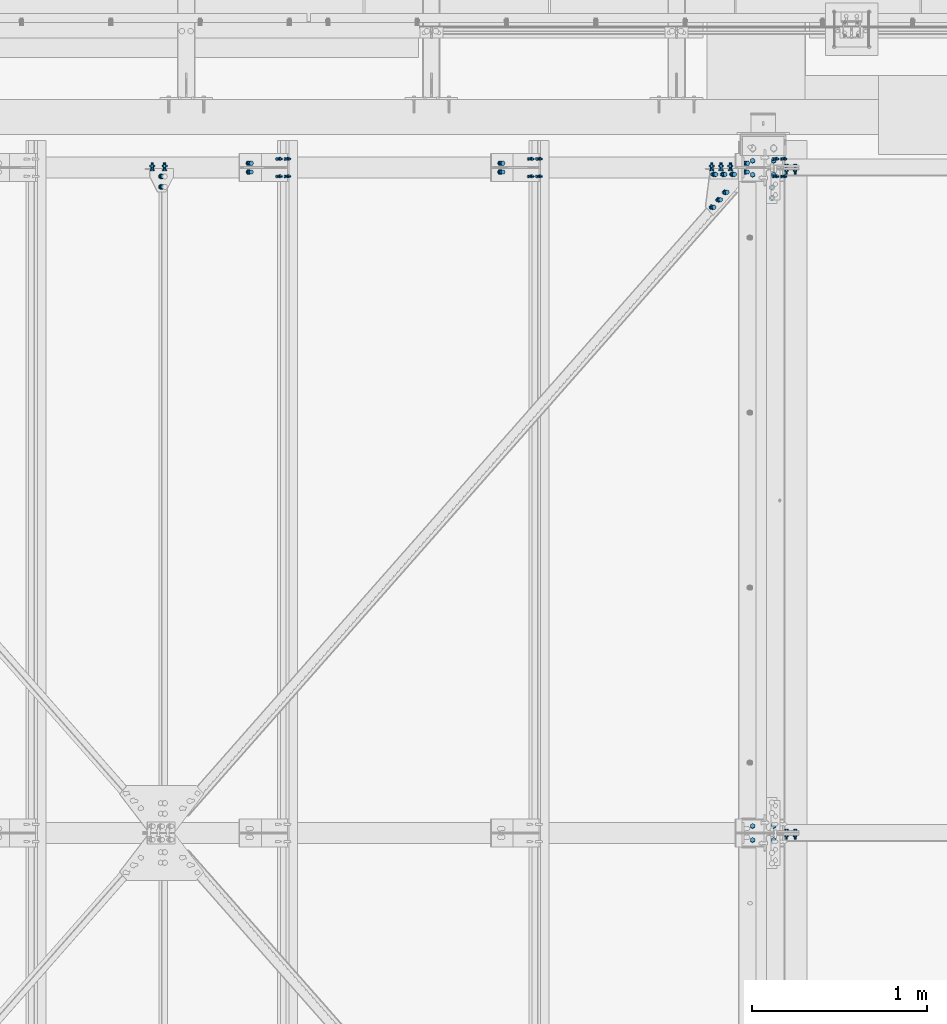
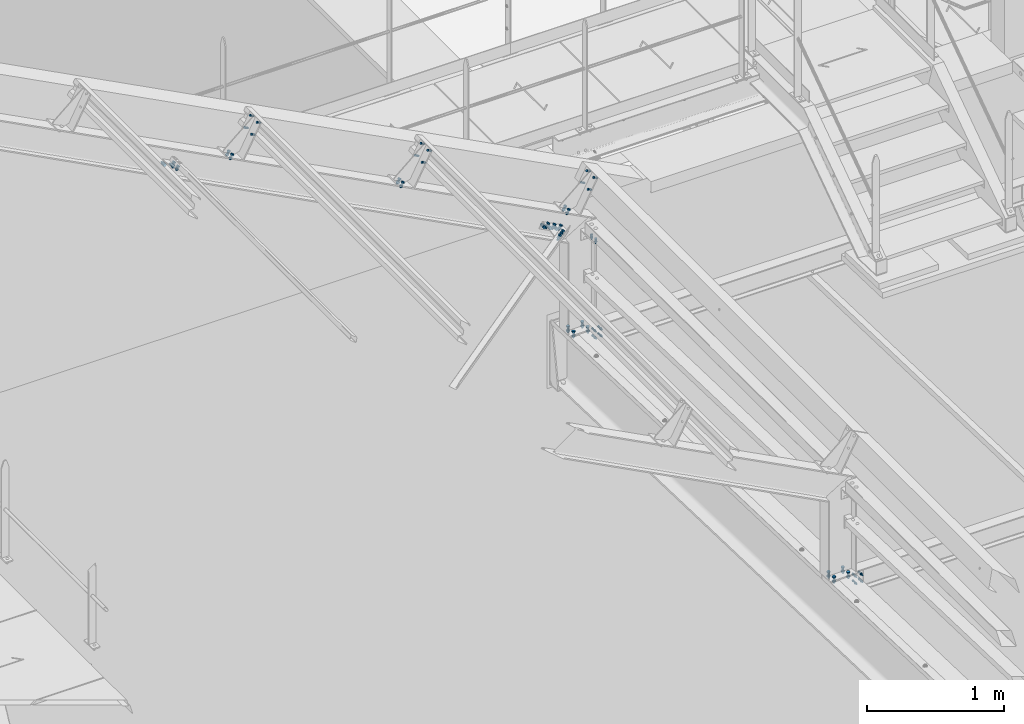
# One storey, part 172 of 362: 17 mechanical fasteners.
"""IFC2X3 building model written with IfcOpenShell, lengths in millimetres."""

from ifc_helpers import new_model, si_unit, frame, frame_2d, origin_with_axes, origin_2d_with_axis, place, context, subcontext, project, spatial, polyline, circle_curve, parameter, trimmed, segment, composite_curve, circle, outline, extrude, source, transform, mapped, material, type_object, element, save


model = new_model("IFC2X3")

# Units and contexts
model_context = context("Model", 3, precision=1e-05, world=origin_with_axes())
body_context = subcontext(model_context, "Body", "Model", "MODEL_VIEW")
ifc_project = project(units=[si_unit("LENGTHUNIT", "METRE", prefix="MILLI"), si_unit("AREAUNIT", "SQUARE_METRE"), si_unit("VOLUMEUNIT", "CUBIC_METRE"), si_unit("MASSUNIT", "GRAM", prefix="KILO"), si_unit("TIMEUNIT", "SECOND"), si_unit("PLANEANGLEUNIT", "RADIAN"), si_unit("SOLIDANGLEUNIT", "STERADIAN"), si_unit("THERMODYNAMICTEMPERATUREUNIT", "DEGREE_CELSIUS"), si_unit("LUMINOUSINTENSITYUNIT", "LUMEN")], contexts=[model_context])

# Site, building, storey
site_placement = place(None, origin_with_axes())
site = spatial("IfcSite", under=ifc_project, at=site_placement, Name="Undefined", CompositionType="ELEMENT")
building_placement = place(site_placement, origin_with_axes())
building = spatial("IfcBuilding", under=site, at=building_placement, Name="Undefined", CompositionType="ELEMENT")
storey_placement = place(building_placement, origin_with_axes())
storey = spatial("IfcBuildingStorey", under=building, at=storey_placement, Name="Undefined", CompositionType="ELEMENT", Elevation=0.0)

# Mechanical fasteners
ifc_material_1 = material(Name="8.8-SB-ZINGUE")
mechanical_fastener_type = type_object("IfcMechanicalFastenerType", Name="Bolt assembly")
shared_shape_1 = source(origin_with_axes(), body_context, "Body", "SweptSolid", [
    extrude(circle(Radius=7.0, at=origin_2d_with_axis()), frame((0.0, -0.10007666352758, 0.0), z_axis=(0.0, 1.0, 0.0), x_axis=(1.0, 0.0, 0.0)), (0.0, 0.0, 1.0), 3.1),
    extrude(circle(Radius=7.0, at=origin_2d_with_axis()), frame((0.0, -9.9, 0.0), z_axis=(0.0, 1.0, 0.0), x_axis=(1.0, 0.0, 0.0)), (0.0, 0.0, 1.0), 10.0),
    extrude(outline(polyline([(10.39230484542, 0.0), (5.19615242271, 9.00000000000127), (-5.19615242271, 9.00000000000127), (-10.39230484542, 0.0), (-5.19615242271, -9.00000000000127), (5.19615242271, -9.00000000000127), (10.39230484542, 0.0)])), frame((0.0, -17.92, 0.0), z_axis=(0.0, 1.0, 0.0), x_axis=(1.0, 0.0, 0.0)), (0.0, 0.0, 1.0), 7.92),
    extrude(circle(Radius=6.0, at=origin_2d_with_axis()), frame((0.0, -10.0000010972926, 0.0), z_axis=(0.0, 1.0, 0.0), x_axis=(1.0, 0.0, 0.0)), (0.0, 0.0, 1.0), 30.0),
    extrude(outline(polyline([(11.5008173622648, 0.0), (5.7504086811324, 9.96000000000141), (-5.7504086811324, 9.96000000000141), (-11.5008173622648, 0.0), (-5.7504086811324, -9.96000000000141), (5.7504086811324, -9.96000000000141), (11.5008173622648, 0.0)])), frame((0.0, 3.00000067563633, 0.0), z_axis=(0.0, 1.0, 0.0), x_axis=(1.0, 0.0, 0.0)), (0.0, 0.0, 1.0), 7.92),
])
for number, where, z_axis, x_axis, name in (
    (1, (19620.3252333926, 15249.9999403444, 8812.98460901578), (0.0, 1.0, 0.0), (0.463528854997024, 6.99999093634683e-09, 0.886081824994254), "Bolt assembly"),
    (2, (19620.3252333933, 15150.0000596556, 8812.98460901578), (0.0, 1.0, 0.0), (0.463528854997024, 6.99999093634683e-09, 0.886081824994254), "Bolt assembly"),
):
    element("IfcMechanicalFastener", number, at=place(storey_placement, frame(where, z_axis=z_axis, x_axis=x_axis)), inside=storey, type_object=mechanical_fastener_type, material=ifc_material_1, Name=name, NominalDiameter=12.0, NominalLength=30.0, context=body_context, shape_type="MappedRepresentation", body=[
        mapped(shared_shape_1, transform((0.0, 0.0, 0.0))),
        mapped(shared_shape_1, transform((99.9999999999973, -1.63709046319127e-11, 7.73070496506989e-12))),
    ])
ifc_material_2 = material(Name="#_SB-8.8-ZINGUE")
shared_shape_2 = source(origin_with_axes(), body_context, "Body", "SweptSolid", [
    extrude(circle(Radius=9.0, at=origin_2d_with_axis()), frame((0.0, -5.8999542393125, 0.0), z_axis=(0.0, 1.0, 0.0), x_axis=(1.0, 0.0, 0.0)), (0.0, 0.0, 1.0), 6.0),
    extrude(circle(Radius=9.0, at=origin_2d_with_axis()), frame((0.0, -0.100011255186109, 0.0), z_axis=(0.0, 1.0, 0.0), x_axis=(1.0, 0.0, 0.0)), (0.0, 0.0, 1.0), 6.1),
    extrude(outline(polyline([(13.85640646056, 0.0), (6.92820323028, 12.0000000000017), (-6.92820323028, 12.0000000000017), (-13.85640646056, 0.0), (-6.92820323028, -12.0000000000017), (6.92820323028, -12.0000000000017), (13.85640646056, 0.0)])), frame((0.0, -16.5599735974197, 0.0), z_axis=(0.0, 1.0, 0.0), x_axis=(1.0, 0.0, 0.0)), (0.0, 0.0, 1.0), 10.56),
    extrude(circle(Radius=8.0, at=origin_2d_with_axis()), frame((0.0, -5.9999542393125, 0.0), z_axis=(0.0, 1.0, 0.0), x_axis=(1.0, 0.0, 0.0)), (0.0, 0.0, 1.0), 40.0),
    extrude(outline(polyline([(15.3344231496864, 0.0), (7.6672115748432, 13.2800000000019), (-7.6672115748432, 13.2800000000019), (-15.3344231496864, 0.0), (-7.6672115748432, -13.2800000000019), (7.6672115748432, -13.2800000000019), (15.3344231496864, 0.0)])), frame((0.0, 6.0, 0.0), z_axis=(0.0, 1.0, 0.0), x_axis=(1.0, 0.0, 0.0)), (0.0, 0.0, 1.0), 10.56),
])
mechanical_fastener_1_placement = place(storey_placement, frame((19337.2315162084, 15059.0096046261, 8588.65069913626), z_axis=(0.628485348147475, -0.704921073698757, -0.328774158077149), x_axis=(-0.624617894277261, -0.709285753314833, 0.326750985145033)))
element("IfcMechanicalFastener", 3, at=mechanical_fastener_1_placement, inside=storey, type_object=mechanical_fastener_type, material=ifc_material_2, Name="Bolt assembly", NominalDiameter=16.0, NominalLength=40.0, context=body_context, shape_type="MappedRepresentation", body=[
    mapped(shared_shape_2, transform((0.0, 0.0, 0.0))),
    mapped(shared_shape_2, transform((60.0, 0.0, 0.0))),
    mapped(shared_shape_2, transform((120.0, 0.0, 0.0))),
])
shared_shape_3 = source(origin_with_axes(), body_context, "Body", "SweptSolid", [
    extrude(circle(Radius=9.0, at=origin_2d_with_axis()), frame((0.0, 0.1, 0.0), z_axis=(0.0, 1.0, 0.0), x_axis=(1.0, 0.0, 0.0)), (0.0, 0.0, 1.0), 6.0),
    extrude(circle(Radius=9.0, at=origin_2d_with_axis()), frame((0.0, 5.90002706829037, 0.0), z_axis=(0.0, 1.0, 0.0), x_axis=(1.0, 0.0, 0.0)), (0.0, 0.0, 1.0), 6.1),
    extrude(outline(polyline([(13.85640646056, 0.0), (6.92820323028, 12.0000000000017), (-6.92820323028, 12.0000000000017), (-13.85640646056, 0.0), (-6.92820323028, -12.0000000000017), (6.92820323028, -12.0000000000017), (13.85640646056, 0.0)])), frame((0.0, -10.5600019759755, 0.0), z_axis=(0.0, 1.0, 0.0), x_axis=(1.0, 0.0, 0.0)), (0.0, 0.0, 1.0), 10.56),
    extrude(circle(Radius=8.0, at=origin_2d_with_axis()), frame((0.0, 0.0, 0.0), z_axis=(0.0, 1.0, 0.0), x_axis=(1.0, 0.0, 0.0)), (0.0, 0.0, 1.0), 40.0),
    extrude(outline(polyline([(15.3344231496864, 0.0), (7.6672115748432, 13.2800000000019), (-7.6672115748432, 13.2800000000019), (-15.3344231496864, 0.0), (-7.6672115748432, -13.2800000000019), (7.6672115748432, -13.2800000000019), (15.3344231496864, 0.0)])), frame((0.0, 12.0000270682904, 0.0), z_axis=(0.0, 1.0, 0.0), x_axis=(1.0, 0.0, 0.0)), (0.0, 0.0, 1.0), 10.56),
])
mechanical_fastener_2_placement = place(storey_placement, frame((19328.4795196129, 15161.5002987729, 8593.22905557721), z_axis=(-0.886082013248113, 9.38091927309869e-07, 0.463528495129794), x_axis=(8.27999962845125e-07, 0.99999999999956, -4.4099997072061e-07)))
element("IfcMechanicalFastener", 4, at=mechanical_fastener_2_placement, inside=storey, type_object=mechanical_fastener_type, material=ifc_material_2, Name="Bolt assembly", NominalDiameter=16.0, NominalLength=40.0, context=body_context, shape_type="MappedRepresentation", body=[
    mapped(shared_shape_3, transform((0.0, 0.0, -60.0))),
    mapped(shared_shape_3, transform((0.0, 0.0, 0.0))),
    mapped(shared_shape_3, transform((0.0, 0.0, 60.0))),
])
shared_shape_4 = source(origin_with_axes(), body_context, "Body", "SweptSolid", [
    extrude(circle(Radius=9.0, at=origin_2d_with_axis()), frame((0.0, -3.20019888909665, 0.0), z_axis=(0.0, 1.0, 0.0), x_axis=(1.0, 0.0, 0.0)), (0.0, 0.0, 1.0), 6.3),
    extrude(circle(Radius=9.0, at=origin_2d_with_axis()), frame((0.0, -9.39989811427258, 0.0), z_axis=(0.0, 1.0, 0.0), x_axis=(1.0, 0.0, 0.0)), (0.0, 0.0, 1.0), 6.0),
    extrude(outline(polyline([(13.85640646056, 0.0), (6.92820323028, 12.0000000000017), (-6.92820323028, 12.0000000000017), (-13.85640646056, 0.0), (-6.92820323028, -12.0000000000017), (6.92820323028, -12.0000000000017), (13.85640646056, 0.0)])), frame((0.0, -20.0598981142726, 0.0), z_axis=(0.0, 1.0, 0.0), x_axis=(1.0, 0.0, 0.0)), (0.0, 0.0, 1.0), 10.56),
    extrude(circle(Radius=8.0, at=origin_2d_with_axis()), frame((0.0, -9.49989811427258, 0.0), z_axis=(0.0, 1.0, 0.0), x_axis=(1.0, 0.0, 0.0)), (0.0, 0.0, 1.0), 40.0),
    extrude(outline(polyline([(15.3344231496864, 0.0), (7.6672115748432, 13.2800000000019), (-7.6672115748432, 13.2800000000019), (-15.3344231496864, 0.0), (-7.6672115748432, -13.2800000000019), (7.6672115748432, -13.2800000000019), (15.3344231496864, 0.0)])), frame((0.0, 3.09980091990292, 0.0), z_axis=(0.0, 1.0, 0.0), x_axis=(1.0, 0.0, 0.0)), (0.0, 0.0, 1.0), 10.56),
])
mechanical_fastener_3_placement = place(storey_placement, frame((19309.4748153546, 15200.0001989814, 8556.89970412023), z_axis=(-0.886081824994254, 0.0, 0.463528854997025), x_axis=(0.463528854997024, 6.99999093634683e-09, 0.886081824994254)))
element("IfcMechanicalFastener", 5, at=mechanical_fastener_3_placement, inside=storey, type_object=mechanical_fastener_type, material=ifc_material_2, Name="Bolt assembly", NominalDiameter=16.0, NominalLength=40.0, context=body_context, shape_type="MappedRepresentation", body=[
    mapped(shared_shape_4, transform((0.0, 0.0, -60.0))),
    mapped(shared_shape_4, transform((0.0, 0.0, 0.0))),
    mapped(shared_shape_4, transform((0.0, 0.0, 60.0))),
])
shared_shape_5 = source(origin_with_axes(), body_context, "Body", "SweptSolid", [
    extrude(circle(Radius=7.0, at=origin_2d_with_axis()), frame((0.0, -0.10007666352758, 0.0), z_axis=(0.0, 1.0, 0.0), x_axis=(1.0, 0.0, 0.0)), (0.0, 0.0, 1.0), 1.6),
    extrude(circle(Radius=7.0, at=origin_2d_with_axis()), frame((0.0, -9.9, 0.0), z_axis=(0.0, 1.0, 0.0), x_axis=(1.0, 0.0, 0.0)), (0.0, 0.0, 1.0), 10.0),
    extrude(outline(polyline([(10.39230484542, 0.0), (5.19615242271, 9.00000000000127), (-5.19615242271, 9.00000000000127), (-10.39230484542, 0.0), (-5.19615242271, -9.00000000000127), (5.19615242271, -9.00000000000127), (10.39230484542, 0.0)])), frame((0.0, -17.92, 0.0), z_axis=(0.0, 1.0, 0.0), x_axis=(1.0, 0.0, 0.0)), (0.0, 0.0, 1.0), 7.92),
    extrude(circle(Radius=6.0, at=origin_2d_with_axis()), frame((0.0, -10.0000010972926, 0.0), z_axis=(0.0, 1.0, 0.0), x_axis=(1.0, 0.0, 0.0)), (0.0, 0.0, 1.0), 30.0),
    extrude(outline(polyline([(11.5008173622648, 0.0), (5.7504086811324, 9.96000000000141), (-5.7504086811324, 9.96000000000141), (-11.5008173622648, 0.0), (-5.7504086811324, -9.96000000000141), (5.7504086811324, -9.96000000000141), (11.5008173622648, 0.0)])), frame((0.0, 1.49996853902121, 0.0), z_axis=(0.0, 1.0, 0.0), x_axis=(1.0, 0.0, 0.0)), (0.0, 0.0, 1.0), 7.92),
])
for number, where, z_axis, x_axis, name in (
    (6, (18222.435375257, 15200.0000596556, 9543.12202798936), (0.0, 1.0, 0.0), (0.463528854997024, 6.99999093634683e-09, 0.886081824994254), "Bolt assembly"),
    (7, (16785.1353099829, 15200.0000596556, 10295.0043300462), (0.0, 1.0, 0.0), (0.463528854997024, 6.99999093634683e-09, 0.886081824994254), "Bolt assembly"),
):
    element("IfcMechanicalFastener", number, at=place(storey_placement, frame(where, z_axis=z_axis, x_axis=x_axis)), inside=storey, type_object=mechanical_fastener_type, material=ifc_material_1, Name=name, NominalDiameter=12.0, NominalLength=30.0, context=body_context, shape_type="MappedRepresentation", body=[
        mapped(shared_shape_5, transform((0.0, 0.0, -50.0))),
        mapped(shared_shape_5, transform((102.00000000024, -2.51020537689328e-10, -50.0))),
        mapped(shared_shape_5, transform((0.0, 0.0, 50.0))),
        mapped(shared_shape_5, transform((102.00000000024, -2.51020537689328e-10, 50.0))),
    ])
shared_shape_6 = source(origin_with_axes(), body_context, "Body", "SweptSolid", [
    extrude(circle(Radius=9.0, at=origin_2d_with_axis()), frame((0.0, -0.0999426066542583, 0.0), z_axis=(0.0, 1.0, 0.0), x_axis=(1.0, 0.0, 0.0)), (0.0, 0.0, 1.0), 9.9),
    extrude(circle(Radius=9.0, at=origin_2d_with_axis()), frame((0.0, -9.9, 0.0), z_axis=(0.0, 1.0, 0.0), x_axis=(1.0, 0.0, 0.0)), (0.0, 0.0, 1.0), 10.0),
    extrude(outline(polyline([(13.85640646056, 0.0), (6.92820323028, 12.0000000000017), (-6.92820323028, 12.0000000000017), (-13.85640646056, 0.0), (-6.92820323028, -12.0000000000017), (6.92820323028, -12.0000000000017), (13.85640646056, 0.0)])), frame((0.0, -20.5600000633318, 0.0), z_axis=(0.0, 1.0, 0.0), x_axis=(1.0, 0.0, 0.0)), (0.0, 0.0, 1.0), 10.56),
    extrude(circle(Radius=8.0, at=origin_2d_with_axis()), frame((0.0, -10.0000010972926, 0.0), z_axis=(0.0, 1.0, 0.0), x_axis=(1.0, 0.0, 0.0)), (0.0, 0.0, 1.0), 40.0),
    extrude(outline(polyline([(15.3344231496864, 0.0), (7.6672115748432, 13.2800000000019), (-7.6672115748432, 13.2800000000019), (-15.3344231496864, 0.0), (-7.6672115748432, -13.2800000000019), (7.6672115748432, -13.2800000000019), (15.3344231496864, 0.0)])), frame((0.0, 9.80008147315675, 0.0), z_axis=(0.0, 1.0, 0.0), x_axis=(1.0, 0.0, 0.0)), (0.0, 0.0, 1.0), 10.56),
])
mechanical_fastener_4_placement = place(storey_placement, frame((16617.3712831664, 15200.0000375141, 10146.8954622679), z_axis=(0.0, 1.0, 0.0), x_axis=(0.886081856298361, 3.500000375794e-08, -0.463528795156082)))
element("IfcMechanicalFastener", 8, at=mechanical_fastener_4_placement, inside=storey, type_object=mechanical_fastener_type, material=ifc_material_1, Name="Bolt assembly", NominalDiameter=16.0, NominalLength=40.0, context=body_context, shape_type="MappedRepresentation", body=[
    mapped(shared_shape_6, transform((0.0, 0.0, -25.0))),
    mapped(shared_shape_6, transform((0.0, 0.0, 25.0))),
])
shared_shape_7 = source(origin_with_axes(), body_context, "Body", "SweptSolid", [
    extrude(circle(Radius=9.0, at=origin_2d_with_axis()), frame((0.0, -0.0998569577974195, 0.0), z_axis=(0.0, 1.0, 0.0), x_axis=(1.0, 0.0, 0.0)), (0.0, 0.0, 1.0), 9.9),
    extrude(circle(Radius=9.0, at=origin_2d_with_axis()), frame((0.0, -9.9, 0.0), z_axis=(0.0, 1.0, 0.0), x_axis=(1.0, 0.0, 0.0)), (0.0, 0.0, 1.0), 10.0),
    extrude(outline(polyline([(13.85640646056, 0.0), (6.92820323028, 12.0000000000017), (-6.92820323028, 12.0000000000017), (-13.85640646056, 0.0), (-6.92820323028, -12.0000000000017), (6.92820323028, -12.0000000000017), (13.85640646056, 0.0)])), frame((0.0, -20.5600000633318, 0.0), z_axis=(0.0, 1.0, 0.0), x_axis=(1.0, 0.0, 0.0)), (0.0, 0.0, 1.0), 10.56),
    extrude(circle(Radius=8.0, at=origin_2d_with_axis()), frame((0.0, -10.0000010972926, 0.0), z_axis=(0.0, 1.0, 0.0), x_axis=(1.0, 0.0, 0.0)), (0.0, 0.0, 1.0), 40.0),
    extrude(outline(polyline([(15.3344231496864, 0.0), (7.6672115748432, 13.2800000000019), (-7.6672115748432, 13.2800000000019), (-15.3344231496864, 0.0), (-7.6672115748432, -13.2800000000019), (7.6672115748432, -13.2800000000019), (15.3344231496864, 0.0)])), frame((0.0, 9.80017144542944, 0.0), z_axis=(0.0, 1.0, 0.0), x_axis=(1.0, 0.0, 0.0)), (0.0, 0.0, 1.0), 10.56),
])
mechanical_fastener_5_placement = place(storey_placement, frame((18054.6713484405, 15200.0000375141, 9395.01316021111), z_axis=(0.0, 1.0, 0.0), x_axis=(0.886081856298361, 3.500000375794e-08, -0.463528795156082)))
element("IfcMechanicalFastener", 9, at=mechanical_fastener_5_placement, inside=storey, type_object=mechanical_fastener_type, material=ifc_material_1, Name="Bolt assembly", NominalDiameter=16.0, NominalLength=40.0, context=body_context, shape_type="MappedRepresentation", body=[
    mapped(shared_shape_7, transform((0.0, 0.0, -25.0))),
    mapped(shared_shape_7, transform((0.0, 0.0, 25.0))),
])
shared_shape_8 = source(origin_with_axes(), body_context, "Body", "SweptSolid", [
    extrude(circle(Radius=9.0, at=origin_2d_with_axis()), frame((0.0, -0.0997388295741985, 0.0), z_axis=(0.0, 1.0, 0.0), x_axis=(1.0, 0.0, 0.0)), (0.0, 0.0, 1.0), 9.9),
    extrude(circle(Radius=9.0, at=origin_2d_with_axis()), frame((0.0, -9.9, 0.0), z_axis=(0.0, 1.0, 0.0), x_axis=(1.0, 0.0, 0.0)), (0.0, 0.0, 1.0), 10.0),
    extrude(outline(polyline([(13.85640646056, 0.0), (6.92820323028, 12.0000000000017), (-6.92820323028, 12.0000000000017), (-13.85640646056, 0.0), (-6.92820323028, -12.0000000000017), (6.92820323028, -12.0000000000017), (13.85640646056, 0.0)])), frame((0.0, -20.5600000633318, 0.0), z_axis=(0.0, 1.0, 0.0), x_axis=(1.0, 0.0, 0.0)), (0.0, 0.0, 1.0), 10.56),
    extrude(circle(Radius=8.0, at=origin_2d_with_axis()), frame((0.0, -10.0000010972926, 0.0), z_axis=(0.0, 1.0, 0.0), x_axis=(1.0, 0.0, 0.0)), (0.0, 0.0, 1.0), 40.0),
    extrude(outline(polyline([(15.3344231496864, 0.0), (7.6672115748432, 13.2800000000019), (-7.6672115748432, 13.2800000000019), (-15.3344231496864, 0.0), (-7.6672115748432, -13.2800000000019), (7.6672115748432, -13.2800000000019), (15.3344231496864, 0.0)])), frame((0.0, 9.80025892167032, 0.0), z_axis=(0.0, 1.0, 0.0), x_axis=(1.0, 0.0, 0.0)), (0.0, 0.0, 1.0), 10.56),
])
mechanical_fastener_6_placement = place(storey_placement, frame((19452.0976781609, 15200.0000375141, 8663.98965918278), z_axis=(0.0, 1.0, 0.0), x_axis=(0.886081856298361, 3.500000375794e-08, -0.463528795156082)))
element("IfcMechanicalFastener", 10, at=mechanical_fastener_6_placement, inside=storey, type_object=mechanical_fastener_type, material=ifc_material_1, Name="Bolt assembly", NominalDiameter=16.0, NominalLength=40.0, context=body_context, shape_type="MappedRepresentation", body=[
    mapped(shared_shape_8, transform((0.0, 0.0, -25.0))),
    mapped(shared_shape_8, transform((0.0, 0.0, 25.0))),
])
shared_shape_9 = source(origin_with_axes(), body_context, "Body", "SweptSolid", [
    extrude(circle(Radius=9.0, at=origin_2d_with_axis()), frame((0.0, -3.89999843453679, 0.0), z_axis=(0.0, 1.0, 0.0), x_axis=(1.0, 0.0, 0.0)), (0.0, 0.0, 1.0), 4.0),
    extrude(circle(Radius=9.0, at=origin_2d_with_axis()), frame((0.0, -0.10007666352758, 0.0), z_axis=(0.0, 1.0, 0.0), x_axis=(1.0, 0.0, 0.0)), (0.0, 0.0, 1.0), 6.1),
    extrude(outline(polyline([(13.85640646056, 0.0), (6.92820323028, 12.0000000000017), (-6.92820323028, 12.0000000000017), (-13.85640646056, 0.0), (-6.92820323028, -12.0000000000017), (6.92820323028, -12.0000000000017), (13.85640646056, 0.0)])), frame((0.0, -14.560000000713, 0.0), z_axis=(0.0, 1.0, 0.0), x_axis=(1.0, 0.0, 0.0)), (0.0, 0.0, 1.0), 10.56),
    extrude(circle(Radius=8.0, at=origin_2d_with_axis()), frame((0.0, -3.99999923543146, 0.0), z_axis=(0.0, 1.0, 0.0), x_axis=(1.0, 0.0, 0.0)), (0.0, 0.0, 1.0), 30.0),
    extrude(outline(polyline([(15.3344231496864, 0.0), (7.6672115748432, 13.2800000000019), (-7.6672115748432, 13.2800000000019), (-15.3344231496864, 0.0), (-7.6672115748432, -13.2800000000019), (7.6672115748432, -13.2800000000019), (15.3344231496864, 0.0)])), frame((0.0, 6.0, 0.0), z_axis=(0.0, 1.0, 0.0), x_axis=(1.0, 0.0, 0.0)), (0.0, 0.0, 1.0), 10.56),
])
mechanical_fastener_7_placement = place(storey_placement, frame((16114.9999887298, 15150.0000000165, 10274.2688661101), z_axis=(0.886081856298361, 3.500000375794e-08, -0.463528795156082), x_axis=(0.0, -1.0, 0.0)))
element("IfcMechanicalFastener", 11, at=mechanical_fastener_7_placement, inside=storey, type_object=mechanical_fastener_type, material=ifc_material_2, Name="Bolt assembly", NominalDiameter=16.0, NominalLength=30.0, context=body_context, shape_type="MappedRepresentation", body=[
    mapped(shared_shape_9, transform((0.0, 0.0, 0.0))),
    mapped(shared_shape_9, transform((60.0, 0.0, 0.0))),
])
shared_shape_10 = source(origin_with_axes(), body_context, "Body", "SweptSolid", [
    extrude(circle(Radius=9.0, at=origin_2d_with_axis()), frame((0.0, -3.20005376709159, 0.0), z_axis=(0.0, 1.0, 0.0), x_axis=(1.0, 0.0, 0.0)), (0.0, 0.0, 1.0), 6.3),
    extrude(circle(Radius=9.0, at=origin_2d_with_axis()), frame((0.0, -9.40005437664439, 0.0), z_axis=(0.0, 1.0, 0.0), x_axis=(1.0, 0.0, 0.0)), (0.0, 0.0, 1.0), 6.0),
    extrude(outline(polyline([(13.85640646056, 0.0), (6.92820323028, 12.0000000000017), (-6.92820323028, 12.0000000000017), (-13.85640646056, 0.0), (-6.92820323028, -12.0000000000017), (6.92820323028, -12.0000000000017), (13.85640646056, 0.0)])), frame((0.0, -20.0600543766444, 0.0), z_axis=(0.0, 1.0, 0.0), x_axis=(1.0, 0.0, 0.0)), (0.0, 0.0, 1.0), 10.56),
    extrude(circle(Radius=8.0, at=origin_2d_with_axis()), frame((0.0, -9.50005437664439, 0.0), z_axis=(0.0, 1.0, 0.0), x_axis=(1.0, 0.0, 0.0)), (0.0, 0.0, 1.0), 40.0),
    extrude(outline(polyline([(15.3344231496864, 0.0), (7.6672115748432, 13.2800000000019), (-7.6672115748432, 13.2800000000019), (-15.3344231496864, 0.0), (-7.6672115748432, -13.2800000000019), (7.6672115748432, -13.2800000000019), (15.3344231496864, 0.0)])), frame((0.0, 3.09994604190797, 0.0), z_axis=(0.0, 1.0, 0.0), x_axis=(1.0, 0.0, 0.0)), (0.0, 0.0, 1.0), 10.56),
])
mechanical_fastener_8_placement = place(storey_placement, frame((16095.9919625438, 15200.0000543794, 10237.9412220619), z_axis=(-0.886081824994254, 0.0, 0.463528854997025), x_axis=(0.463528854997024, 6.99999093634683e-09, 0.886081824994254)))
element("IfcMechanicalFastener", 12, at=mechanical_fastener_8_placement, inside=storey, type_object=mechanical_fastener_type, material=ifc_material_2, Name="Bolt assembly", NominalDiameter=16.0, NominalLength=40.0, context=body_context, shape_type="MappedRepresentation", body=[
    mapped(shared_shape_10, transform((0.0, 0.0, 40.0))),
    mapped(shared_shape_10, transform((0.0, 0.0, -40.0))),
])
shared_shape_11 = source(origin_with_axes(), body_context, "Body", "SweptSolid", [
    extrude(circle(Radius=7.0, at=origin_2d_with_axis()), frame((0.0, -3.89999843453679, 0.0), z_axis=(0.0, 1.0, 0.0), x_axis=(1.0, 0.0, 0.0)), (0.0, 0.0, 1.0), 4.0),
    extrude(outline(composite_curve([segment(polyline([(-7.0, 7.0), (7.0, 7.0)]), True, "CONTINUOUS"), segment(trimmed(circle_curve(frame_2d((7.0, 0.0), x_axis=(0.0, 1.0)), 7.0), [parameter(0.0)], [parameter(3.14159265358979)], False, "PARAMETER"), True, "CONTINUOUS"), segment(polyline([(7.0, -7.0), (-7.0, -7.0)]), True, "CONTINUOUS"), segment(trimmed(circle_curve(frame_2d((-7.0, 0.0), x_axis=(0.0, -1.0)), 7.0), [parameter(0.0)], [parameter(3.14159265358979)], False, "PARAMETER"), True, "DISCONTINUOUS")], self_intersect=False)), frame((0.0, -0.100011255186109, 0.0), z_axis=(0.0, 1.0, 0.0), x_axis=(1.0, 0.0, 0.0)), (0.0, 0.0, 1.0), 10.1),
    extrude(outline(polyline([(10.39230484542, 0.0), (5.19615242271, 9.00000000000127), (-5.19615242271, 9.00000000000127), (-10.39230484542, 0.0), (-5.19615242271, -9.00000000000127), (5.19615242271, -9.00000000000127), (10.39230484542, 0.0)])), frame((0.0, -11.9199984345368, 0.0), z_axis=(0.0, 1.0, 0.0), x_axis=(1.0, 0.0, 0.0)), (0.0, 0.0, 1.0), 7.92),
    extrude(circle(Radius=6.0, at=origin_2d_with_axis()), frame((0.0, -3.99999923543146, 0.0), z_axis=(0.0, 1.0, 0.0), x_axis=(1.0, 0.0, 0.0)), (0.0, 0.0, 1.0), 40.0),
    extrude(circle(Radius=10.8, at=origin_2d_with_axis()), frame((0.0, 10.0000000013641, 0.0), z_axis=(0.0, 1.0, 0.0), x_axis=(1.0, 0.0, 0.0)), (0.0, 0.0, 1.0), 3.96),
    extrude(outline(polyline([(11.5008173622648, 0.0), (5.7504086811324, 9.96000000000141), (-5.7504086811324, 9.96000000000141), (-11.5008173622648, 0.0), (-5.7504086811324, -9.96000000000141), (5.7504086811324, -9.96000000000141), (11.5008173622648, 0.0)])), frame((0.0, 13.96, 0.0), z_axis=(0.0, 1.0, 0.0), x_axis=(1.0, 0.0, 0.0)), (0.0, 0.0, 1.0), 7.92),
])
mechanical_fastener_9_placement = place(storey_placement, frame((19599.9999999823, 15026.5, 8450.0), z_axis=(-1.0, 0.0, 0.0), x_axis=(0.0, 1.0, 0.0)))
element("IfcMechanicalFastener", 13, at=mechanical_fastener_9_placement, inside=storey, type_object=mechanical_fastener_type, material=ifc_material_1, Name="Bolt assembly", NominalDiameter=12.0, NominalLength=40.0, context=body_context, shape_type="MappedRepresentation", body=[
    mapped(shared_shape_11, transform((0.0, 0.0, 0.0))),
    mapped(shared_shape_11, transform((60.0, 0.0, 0.0))),
])
shared_shape_12 = source(origin_with_axes(), body_context, "Body", "SweptSolid", [
    extrude(circle(Radius=9.0, at=origin_2d_with_axis()), frame((0.0, -0.0995067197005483, 0.0), z_axis=(0.0, 1.0, 0.0), x_axis=(1.0, 0.0, 0.0)), (0.0, 0.0, 1.0), 17.3),
    extrude(circle(Radius=9.0, at=origin_2d_with_axis()), frame((0.0, -9.9, 0.0), z_axis=(0.0, 1.0, 0.0), x_axis=(1.0, 0.0, 0.0)), (0.0, 0.0, 1.0), 10.0),
    extrude(outline(polyline([(13.85640646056, 0.0), (6.92820323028, 12.0000000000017), (-6.92820323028, 12.0000000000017), (-13.85640646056, 0.0), (-6.92820323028, -12.0000000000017), (6.92820323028, -12.0000000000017), (13.85640646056, 0.0)])), frame((0.0, -20.5600000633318, 0.0), z_axis=(0.0, 1.0, 0.0), x_axis=(1.0, 0.0, 0.0)), (0.0, 0.0, 1.0), 10.56),
    extrude(circle(Radius=8.0, at=origin_2d_with_axis()), frame((0.0, -10.0000010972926, 0.0), z_axis=(0.0, 1.0, 0.0), x_axis=(1.0, 0.0, 0.0)), (0.0, 0.0, 1.0), 50.0),
    extrude(outline(polyline([(15.3344231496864, 0.0), (7.6672115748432, 13.2800000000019), (-7.6672115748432, 13.2800000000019), (-15.3344231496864, 0.0), (-7.6672115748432, -13.2800000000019), (7.6672115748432, -13.2800000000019), (15.3344231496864, 0.0)])), frame((0.0, 17.2004940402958, 0.0), z_axis=(0.0, 1.0, 0.0), x_axis=(1.0, 0.0, 0.0)), (0.0, 0.0, 1.0), 10.56),
])
mechanical_fastener_10_placement = place(storey_placement, frame((19550.0, 11359.7053134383, 7693.00737292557), z_axis=(-1.0, 0.0, 0.0), x_axis=(3.14103090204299e-11, 0.999506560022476, -0.0314107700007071)))
element("IfcMechanicalFastener", 14, at=mechanical_fastener_10_placement, inside=storey, type_object=mechanical_fastener_type, material=ifc_material_1, Name="Bolt assembly", NominalDiameter=16.0, NominalLength=50.0, context=body_context, shape_type="MappedRepresentation", body=[
    mapped(shared_shape_12, transform((0.0, 0.0, -60.0))),
    mapped(shared_shape_12, transform((80.0, 0.0, -60.0))),
    mapped(shared_shape_12, transform((0.0, 0.0, 60.0))),
    mapped(shared_shape_12, transform((80.0, 0.0, 60.0))),
])
shared_shape_13 = source(origin_with_axes(), body_context, "Body", "SweptSolid", [
    extrude(circle(Radius=9.0, at=origin_2d_with_axis()), frame((0.0, -0.100011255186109, 0.0), z_axis=(0.0, 1.0, 0.0), x_axis=(1.0, 0.0, 0.0)), (0.0, 0.0, 1.0), 17.3),
    extrude(circle(Radius=9.0, at=origin_2d_with_axis()), frame((0.0, -9.9, 0.0), z_axis=(0.0, 1.0, 0.0), x_axis=(1.0, 0.0, 0.0)), (0.0, 0.0, 1.0), 10.0),
    extrude(outline(polyline([(13.85640646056, 0.0), (6.92820323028, 12.0000000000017), (-6.92820323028, 12.0000000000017), (-13.85640646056, 0.0), (-6.92820323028, -12.0000000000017), (6.92820323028, -12.0000000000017), (13.85640646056, 0.0)])), frame((0.0, -20.5600000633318, 0.0), z_axis=(0.0, 1.0, 0.0), x_axis=(1.0, 0.0, 0.0)), (0.0, 0.0, 1.0), 10.56),
    extrude(circle(Radius=8.0, at=origin_2d_with_axis()), frame((0.0, -10.0000010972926, 0.0), z_axis=(0.0, 1.0, 0.0), x_axis=(1.0, 0.0, 0.0)), (0.0, 0.0, 1.0), 50.0),
    extrude(outline(polyline([(15.3344231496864, 0.0), (7.6672115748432, 13.2800000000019), (-7.6672115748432, 13.2800000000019), (-15.3344231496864, 0.0), (-7.6672115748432, -13.2800000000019), (7.6672115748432, -13.2800000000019), (15.3344231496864, 0.0)])), frame((0.0, 17.2000007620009, 0.0), z_axis=(0.0, 1.0, 0.0), x_axis=(1.0, 0.0, 0.0)), (0.0, 0.0, 1.0), 10.56),
])
mechanical_fastener_11_placement = place(storey_placement, frame((19550.0, 15159.7053134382, 7573.58709801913), z_axis=(-1.0, 0.0, 0.0), x_axis=(3.14103090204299e-11, 0.999506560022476, -0.0314107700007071)))
element("IfcMechanicalFastener", 15, at=mechanical_fastener_11_placement, inside=storey, type_object=mechanical_fastener_type, material=ifc_material_1, Name="Bolt assembly", NominalDiameter=16.0, NominalLength=50.0, context=body_context, shape_type="MappedRepresentation", body=[
    mapped(shared_shape_13, transform((0.0, 0.0, -60.0))),
    mapped(shared_shape_13, transform((80.0, 0.0, -60.0))),
    mapped(shared_shape_13, transform((0.0, 0.0, 60.0))),
    mapped(shared_shape_13, transform((80.0, 0.0, 60.0))),
])
shared_shape_14 = source(origin_with_axes(), body_context, "Body", "SweptSolid", [
    extrude(circle(Radius=7.0, at=origin_2d_with_axis()), frame((0.0, -2.64402363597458, 0.0), z_axis=(0.0, 1.0, 0.0), x_axis=(1.0, 0.0, 0.0)), (0.0, 0.0, 1.0), 5.3),
    extrude(circle(Radius=7.0, at=origin_2d_with_axis()), frame((0.0, 2.90038411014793, 0.0), z_axis=(0.0, 1.0, 0.0), x_axis=(1.0, 0.0, 0.0)), (0.0, 0.0, 1.0), 10.1),
    extrude(circle(Radius=7.0, at=origin_2d_with_axis()), frame((0.0, -12.9004311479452, 0.0), z_axis=(0.0, 1.0, 0.0), x_axis=(1.0, 0.0, 0.0)), (0.0, 0.0, 1.0), 10.0),
    extrude(outline(polyline([(10.39230484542, 0.0), (5.19615242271, 9.00000000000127), (-5.19615242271, 9.00000000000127), (-10.39230484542, 0.0), (-5.19615242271, -9.00000000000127), (5.19615242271, -9.00000000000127), (10.39230484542, 0.0)])), frame((0.0, -20.9204311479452, 0.0), z_axis=(0.0, 1.0, 0.0), x_axis=(1.0, 0.0, 0.0)), (0.0, 0.0, 1.0), 7.92),
    extrude(circle(Radius=6.0, at=origin_2d_with_axis()), frame((0.0, -13.0004311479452, 0.0), z_axis=(0.0, 1.0, 0.0), x_axis=(1.0, 0.0, 0.0)), (0.0, 0.0, 1.0), 50.0),
    extrude(outline(polyline([(11.5008173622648, 0.0), (5.7504086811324, 9.96000000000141), (-5.7504086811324, 9.96000000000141), (-11.5008173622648, 0.0), (-5.7504086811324, -9.96000000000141), (5.7504086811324, -9.96000000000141), (11.5008173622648, 0.0)])), frame((0.0, 13.0004311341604, 0.0), z_axis=(0.0, 1.0, 0.0), x_axis=(1.0, 0.0, 0.0)), (0.0, 0.0, 1.0), 7.92),
])
for number, where, z_axis, x_axis, name in (
    (16, (19733.0, 15200.0059952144, 7482.2763066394), (7.58071938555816e-11, 0.0314107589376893, 0.999506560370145), (-1.0, 0.0, 0.0), "Bolt assembly"),
    (17, (19733.0, 11400.005994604, 7601.69611736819), (7.58071938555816e-11, 0.0314107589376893, 0.999506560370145), (-1.0, 0.0, 0.0), "Bolt assembly"),
):
    element("IfcMechanicalFastener", number, at=place(storey_placement, frame(where, z_axis=z_axis, x_axis=x_axis)), inside=storey, type_object=mechanical_fastener_type, material=ifc_material_1, Name=name, NominalDiameter=12.0, NominalLength=50.0, context=body_context, shape_type="MappedRepresentation", body=[
        mapped(shared_shape_14, transform((0.0, 0.0, -30.0))),
        mapped(shared_shape_14, transform((49.9999999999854, 1.98269844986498e-10, -29.9999999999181))),
        mapped(shared_shape_14, transform((0.0, 0.0, 30.0))),
        mapped(shared_shape_14, transform((50.0000000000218, 1.44154910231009e-10, 30.0000000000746))),
    ])

save(model, "model.ifc")
